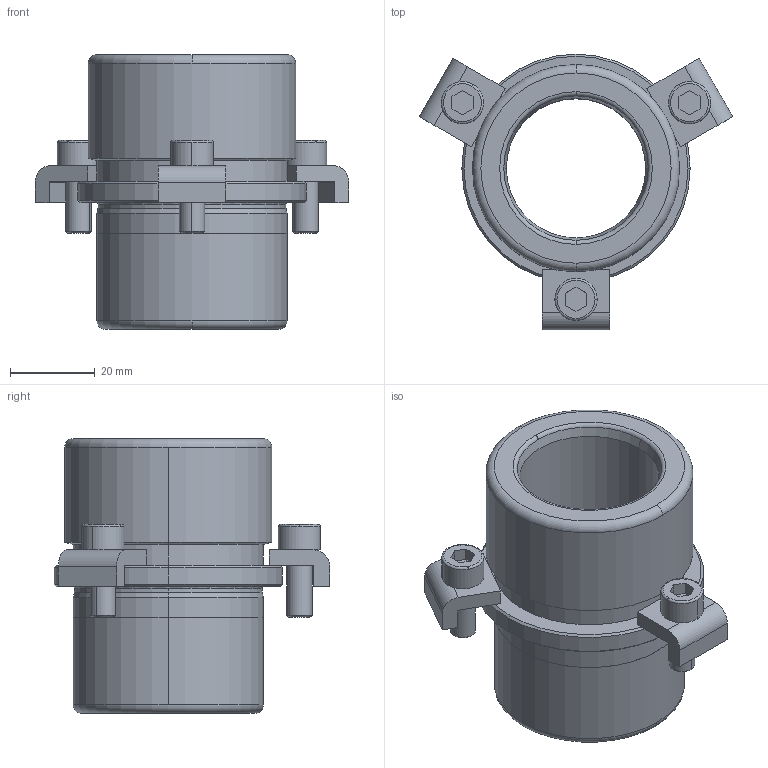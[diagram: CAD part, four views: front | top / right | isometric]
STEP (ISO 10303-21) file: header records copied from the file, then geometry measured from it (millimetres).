
FILE_DESCRIPTION((''),'2;1');
FILE_NAME('B40_025_035.stp','2009-01-05T16:25:58',(''),(''),'Mechanical Desktop 2009','Mechanical Desktop 2009',', , ');
FILE_SCHEMA(('CONFIG_CONTROL_DESIGN'));
Length unit declared in the file: millimetre
Products named in the file (2): Product; blmdl1
Assembly tree (1 placements, depth 2):
  Product
    blmdl1
Bounding box: 74.11 x 65.2 x 65 mm (x, y, z)
Volume: 63325.5 mm3; surface area: 23826.5 mm2
Topology: 7 solids, 7 shells, 141 faces, 362 edges, 238 vertices
Faces by surface type: plane 59, cylinder 38, cone 20, torus 14, bspline 10
Entity records: 4891 total; most frequent: CARTESIAN_POINT 1231, DIRECTION 794, ORIENTED_EDGE 724, EDGE_CURVE 362, AXIS2_PLACEMENT_3D 311, VERTEX_POINT 238, CIRCLE 178, VECTOR 172
